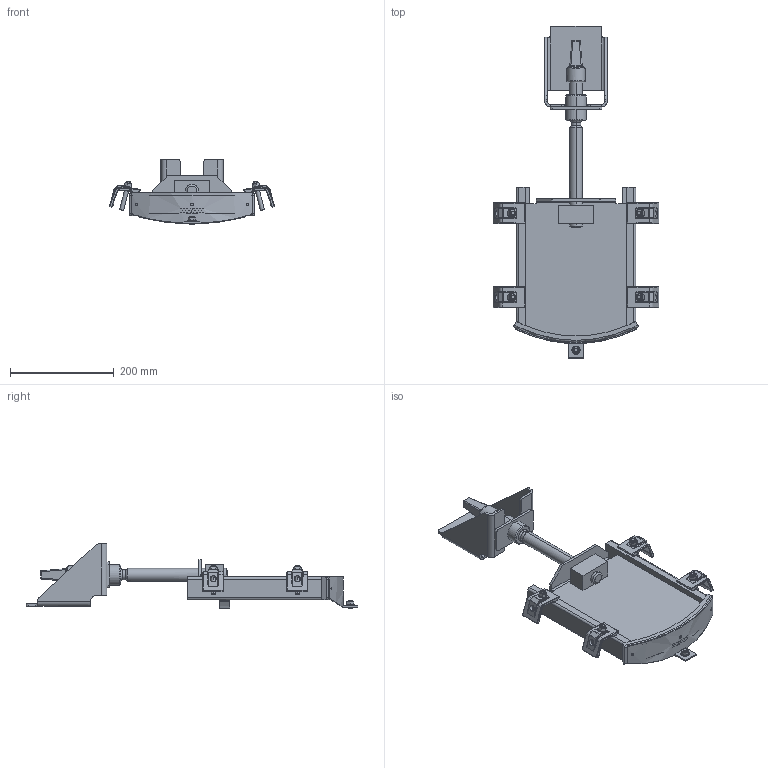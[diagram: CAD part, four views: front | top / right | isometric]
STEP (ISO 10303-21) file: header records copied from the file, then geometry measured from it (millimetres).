
FILE_DESCRIPTION (( 'STEP AP214' ), '1' );
FILE_NAME ('LW 150 Schacht800 geschr..STEP', '2022-05-19T08:02:32', ( '' ), ( '' ), 'SwSTEP 2.0', 'SolidWorks 2021', '' );
FILE_SCHEMA (( 'AUTOMOTIVE_DESIGN' ));
Length unit declared in the file: millimetre
Products named in the file (1): LW 150 Schacht800 geschr.
Bounding box: 319.35 x 640 x 124.92 mm (x, y, z)
Volume: 1540702.1 mm3; surface area: 438468.8 mm2
Topology: 1 solids, 5 shells, 999 faces, 2432 edges, 1426 vertices
Faces by surface type: cylinder 326, plane 267, bspline 214, cone 76, sphere 60, torus 56
Entity records: 50749 total; most frequent: CARTESIAN_POINT 18394, ORIENTED_EDGE 4744, DIRECTION 3986, EDGE_CURVE 2372, AXIS2_PLACEMENT_3D 1556, VERTEX_POINT 1418, EDGE_LOOP 1062, UNCERTAINTY_MEASURE_WITH_UNIT 1002
